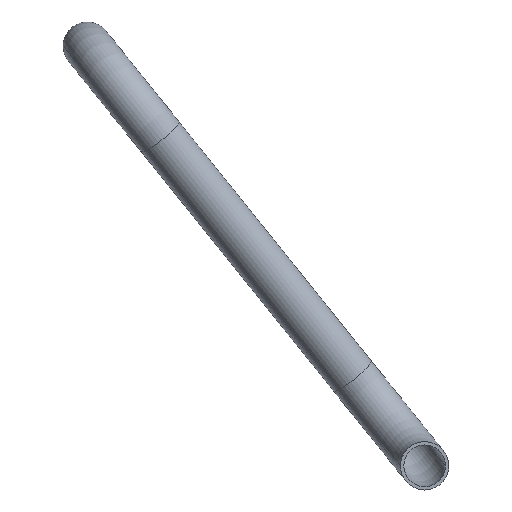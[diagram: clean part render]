
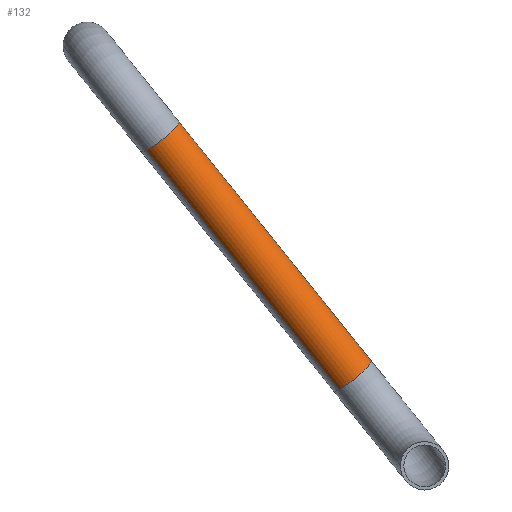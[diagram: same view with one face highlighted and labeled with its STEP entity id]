
A CAD part, left-side view. The second image highlights one B-rep face of the part: STEP entity #132.
In plain terms, the highlighted cylindrical face has radius 11 mm (diameter 22 mm), a partial arc.
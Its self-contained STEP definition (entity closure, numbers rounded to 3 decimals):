
#92=AXIS2_PLACEMENT_3D('Circle Axis2P3D',#90,#91,$) ;
#105=AXIS2_PLACEMENT_3D('Cylinder Axis2P3D',#102,#103,#104) ;
#123=AXIS2_PLACEMENT_3D('Circle Axis2P3D',#121,#122,$) ;
#80=CARTESIAN_POINT('Vertex',(592.406,922.292,358.115)) ;
#87=CARTESIAN_POINT('Vertex',(605.987,910.405,370.697)) ;
#90=CARTESIAN_POINT('Axis2P3D Location',(599.196,916.349,364.406)) ;
#102=CARTESIAN_POINT('Axis2P3D Location',(587.05,960.165,418.915)) ;
#107=CARTESIAN_POINT('Line Origine',(580.26,966.109,412.625)) ;
#111=CARTESIAN_POINT('Vertex',(568.113,1009.926,467.134)) ;
#114=CARTESIAN_POINT('Line Origine',(593.84,954.222,425.206)) ;
#118=CARTESIAN_POINT('Vertex',(581.693,998.039,479.716)) ;
#121=CARTESIAN_POINT('Axis2P3D Location',(574.903,1003.982,473.425)) ;
#91=DIRECTION('Axis2P3D Direction',(0.171,-0.617,-0.768)) ;
#103=DIRECTION('Axis2P3D Direction',(-0.171,0.617,0.768)) ;
#104=DIRECTION('Axis2P3D XDirection',(-0.617,0.54,-0.572)) ;
#108=DIRECTION('Vector Direction',(-0.171,0.617,0.768)) ;
#115=DIRECTION('Vector Direction',(-0.171,0.617,0.768)) ;
#122=DIRECTION('Axis2P3D Direction',(-0.171,0.617,0.768)) ;
#109=VECTOR('Line Direction',#108,1.) ;
#116=VECTOR('Line Direction',#115,1.) ;
#127=ORIENTED_EDGE('',*,*,#113,.F.) ;
#128=ORIENTED_EDGE('',*,*,#94,.T.) ;
#129=ORIENTED_EDGE('',*,*,#120,.T.) ;
#130=ORIENTED_EDGE('',*,*,#125,.F.) ;
#132=ADVANCED_FACE('( + ) PartBody',(#131),#106,.T.) ;
#93=CIRCLE('generated circle',#92,11.) ;
#124=CIRCLE('generated circle',#123,11.) ;
#106=CYLINDRICAL_SURFACE('generated cylinder',#105,11.) ;
#94=EDGE_CURVE('',#81,#88,#93,.F.) ;
#113=EDGE_CURVE('',#81,#112,#110,.T.) ;
#120=EDGE_CURVE('',#88,#119,#117,.T.) ;
#125=EDGE_CURVE('',#112,#119,#124,.T.) ;
#126=EDGE_LOOP('',(#127,#128,#129,#130)) ;
#131=FACE_OUTER_BOUND('',#126,.T.) ;
#110=LINE('Line',#107,#109) ;
#117=LINE('Line',#114,#116) ;
#81=VERTEX_POINT('',#80) ;
#88=VERTEX_POINT('',#87) ;
#112=VERTEX_POINT('',#111) ;
#119=VERTEX_POINT('',#118) ;
